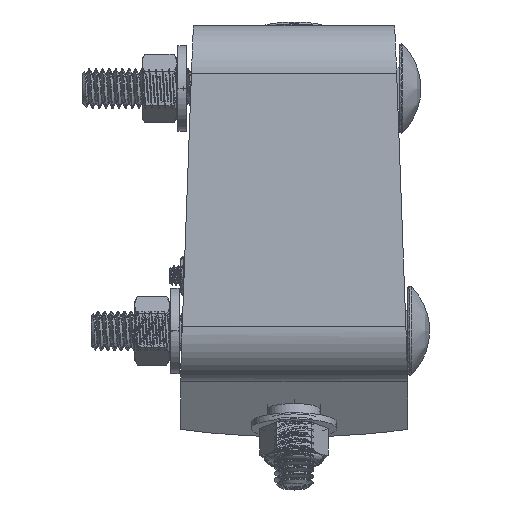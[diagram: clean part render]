
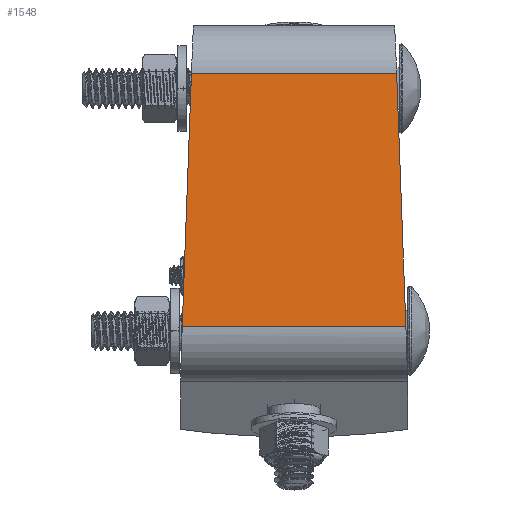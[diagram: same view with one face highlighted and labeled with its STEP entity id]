
A CAD part, left-side view. The second image highlights one B-rep face of the part: STEP entity #1548.
In plain terms, the highlighted planar face has unit normal (-0.997, 0, 0.08).
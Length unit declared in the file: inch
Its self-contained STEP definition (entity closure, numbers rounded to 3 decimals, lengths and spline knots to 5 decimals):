
#1548=ADVANCED_FACE('',(#2890),#20673,.T.);
#2890=FACE_OUTER_BOUND('',#4371,.T.);
#4371=EDGE_LOOP('',(#11087,#11088,#11089,#11090));
#11087=ORIENTED_EDGE('',*,*,#14521,.T.);
#11088=ORIENTED_EDGE('',*,*,#14540,.F.);
#11089=ORIENTED_EDGE('',*,*,#14527,.T.);
#11090=ORIENTED_EDGE('',*,*,#14539,.F.);
#14521=EDGE_CURVE('',#20136,#20140,#16393,.T.);
#14527=EDGE_CURVE('',#20146,#20145,#16394,.T.);
#14539=EDGE_CURVE('',#20136,#20145,#16397,.T.);
#14540=EDGE_CURVE('',#20146,#20140,#16398,.T.);
#16393=B_SPLINE_CURVE_WITH_KNOTS('',1,(#75917,#75918),.UNSPECIFIED.,.F.,
 .F.,(2,2),(0.,2.40251),.UNSPECIFIED.);
#16394=B_SPLINE_CURVE_WITH_KNOTS('',1,(#75942,#75943),.UNSPECIFIED.,.F.,
 .F.,(2,2),(0.,2.40251),.UNSPECIFIED.);
#16397=B_SPLINE_CURVE_WITH_KNOTS('',1,(#75985,#75986),.UNSPECIFIED.,.F.,
 .F.,(2,2),(0.,2.11864),.UNSPECIFIED.);
#16398=B_SPLINE_CURVE_WITH_KNOTS('',1,(#75987,#75988),.UNSPECIFIED.,.F.,
 .F.,(2,2),(0.,1.94413),.UNSPECIFIED.);
#20136=VERTEX_POINT('',#75821);
#20140=VERTEX_POINT('',#75825);
#20145=VERTEX_POINT('',#75830);
#20146=VERTEX_POINT('',#75831);
#20673=PLANE('',#22034);
#22034=AXIS2_PLACEMENT_3D('',#75556,#22552,$);
#22552=DIRECTION('',(-0.997,0.,0.08));
#75556=CARTESIAN_POINT('',(-19.58398,-1.27591,6.28026));
#75821=CARTESIAN_POINT('',(-19.56441,-1.05932,6.52493));
#75825=CARTESIAN_POINT('',(-19.37299,-0.97206,8.91821));
#75830=CARTESIAN_POINT('',(-19.56441,1.05932,6.52493));
#75831=CARTESIAN_POINT('',(-19.37299,0.97206,8.91821));
#75917=CARTESIAN_POINT('',(-19.56441,-1.05932,6.52493));
#75918=CARTESIAN_POINT('',(-19.37299,-0.97206,8.91821));
#75942=CARTESIAN_POINT('',(-19.37299,0.97206,8.91821));
#75943=CARTESIAN_POINT('',(-19.56441,1.05932,6.52493));
#75985=CARTESIAN_POINT('',(-19.56441,-1.05932,6.52493));
#75986=CARTESIAN_POINT('',(-19.56441,1.05932,6.52493));
#75987=CARTESIAN_POINT('',(-19.37299,0.97206,8.91821));
#75988=CARTESIAN_POINT('',(-19.37299,-0.97206,8.91821));
